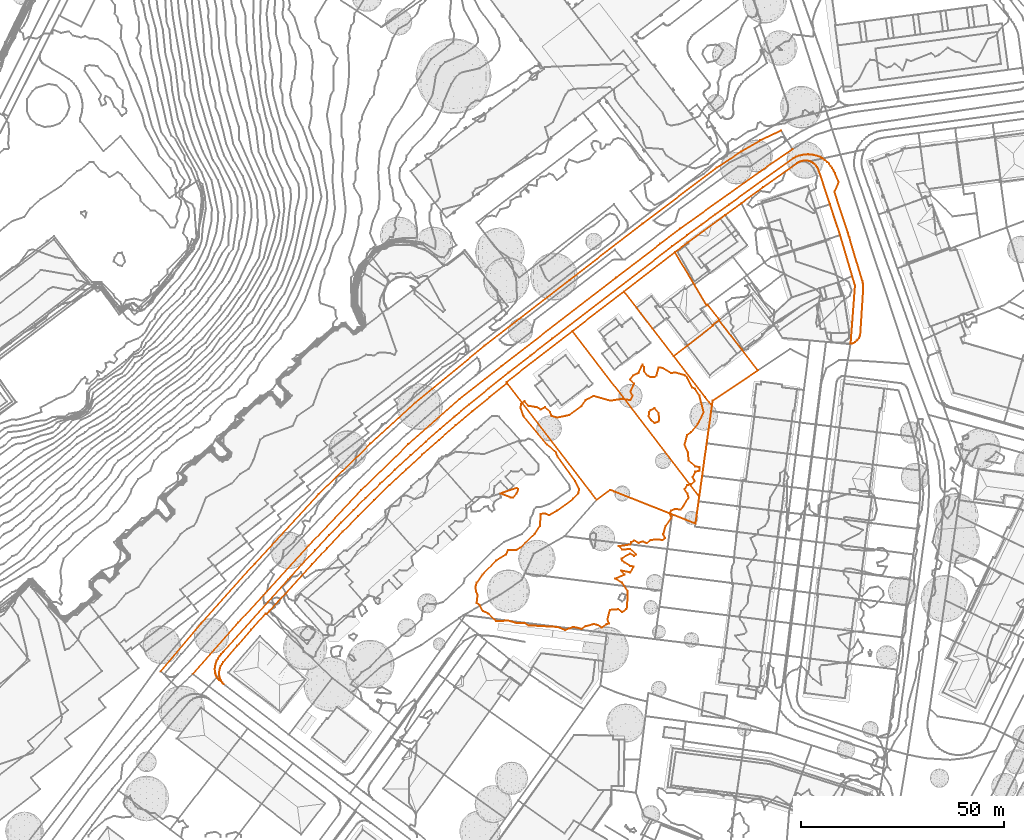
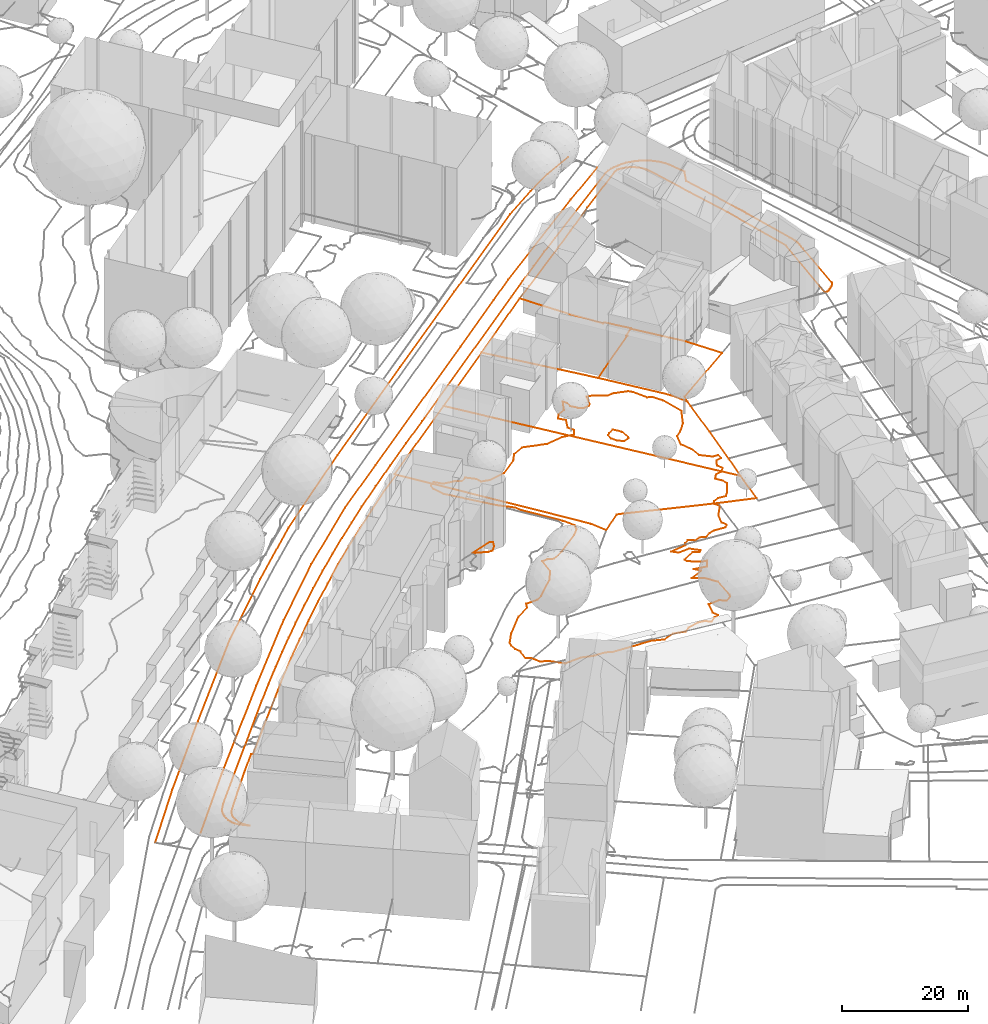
# Not in any storey, part 122 of 494: 10 proxies.
"""IFC2X3 model written with IfcOpenShell, lengths in metres."""

from ifc_helpers import new_model, entity, si_unit, frame, origin_with_axes, place, context, subcontext, project, element, save


model = new_model("IFC2X3")

# Units and contexts
model_context = context("Model", 3, precision=1e-05, world=origin_with_axes())
body_context = subcontext(model_context, "Body", "Model", "MODEL_VIEW")
ifc_project = project(units=[si_unit("AREAUNIT", "SQUARE_METRE"), si_unit("LENGTHUNIT", "METRE")], contexts=[model_context])

# Proxies
proxy_1_placement = place(None, frame((305.0887320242, 38.7097419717, 503.035), z_axis=(0.0, 0.0, 1.0), x_axis=(1.0, 0.0, 0.0)))
element("IfcBuildingElementProxy", 1, at=proxy_1_placement, Name="Road 124", ObjectType="NOTDEFINED", context=body_context, shape_type="GeometricCurveSet", body=[
    entity("IfcGeometricCurveSet", [entity("IfcPolyline", [entity("IfcCartesianPoint", [0.0, 0.0, 0.0]), entity("IfcCartesianPoint", [11.1600000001, 12.6289996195, -0.15]), entity("IfcCartesianPoint", [28.4880000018, 31.5709990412, -0.421]), entity("IfcCartesianPoint", [41.4100000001, 45.2269986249, -0.49]), entity("IfcCartesianPoint", [53.0100000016, 56.5349982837, -0.586]), entity("IfcCartesianPoint", [65.6390000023, 67.6949979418, -0.784]), entity("IfcCartesianPoint", [75.9180000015, 75.7709976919, -0.984]), entity("IfcCartesianPoint", [104.1130000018, 97.5049970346, -1.011]), entity("IfcCartesianPoint", [114.9790000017, 105.8319967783, -0.845]), entity("IfcCartesianPoint", [119.825000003, 109.5459966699, -0.77]), entity("IfcCartesianPoint", [139.355, 123.4959962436, -0.552]), entity("IfcCartesianPoint", [147.469, 129.0869960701, -0.554])])]),
])
proxy_2_placement = place(None, frame((297.1457320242, 39.3937419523, 503.513), z_axis=(0.0, 0.0, 1.0), x_axis=(1.0, 0.0, 0.0)))
element("IfcBuildingElementProxy", 2, at=proxy_2_placement, Name="Road 125", ObjectType="NOTDEFINED", context=body_context, shape_type="GeometricCurveSet", body=[
    entity("IfcGeometricCurveSet", [entity("IfcPolyline", [entity("IfcCartesianPoint", [0.0, 0.0, 0.0]), entity("IfcCartesianPoint", [9.9560000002, 11.7869996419, -0.342]), entity("IfcCartesianPoint", [23.1170000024, 26.4359991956, -0.433]), entity("IfcCartesianPoint", [38.9110000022, 43.6019986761, -0.512]), entity("IfcCartesianPoint", [51.6130000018, 55.9619982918, -0.757]), entity("IfcCartesianPoint", [62.7149999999, 66.1469979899, -0.788]), entity("IfcCartesianPoint", [79.7660000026, 80.1099975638, -1.114]), entity("IfcCartesianPoint", [100.5950000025, 96.245997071, -1.134]), entity("IfcCartesianPoint", [118.5620000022, 110.0929966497, -1.168]), entity("IfcCartesianPoint", [136.7580000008, 123.825996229, -0.733]), entity("IfcCartesianPoint", [142.8230000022, 127.8319961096, -0.864]), entity("IfcCartesianPoint", [147.5160000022, 130.5779960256, -0.789]), entity("IfcCartesianPoint", [152.6660000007, 132.98199595, -0.772])])]),
])
proxy_3_placement = place(None, frame((310.5167320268, 39.9797160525, 503.2314039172), z_axis=(0.0, 0.0, 1.0), x_axis=(1.0, 0.0, 0.0)))
element("IfcBuildingElementProxy", 3, at=proxy_3_placement, Name="Roads Outline 117", ObjectType="NOTDEFINED", context=body_context, shape_type="GeometricCurveSet", body=[
    entity("IfcGeometricCurveSet", [entity("IfcPolyline", [entity("IfcCartesianPoint", [0.0439999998, 0.5989999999, 0.0023964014]), entity("IfcCartesianPoint", [0.142, 1.1109999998, -0.0079386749]), entity("IfcCartesianPoint", [0.2949999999, 1.6089999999, -0.0209923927]), entity("IfcCartesianPoint", [0.5019999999, 2.088, -0.0255629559]), entity("IfcCartesianPoint", [0.7590000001, 2.541, -0.0249603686]), entity("IfcCartesianPoint", [1.148, 3.112, -0.0329496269]), entity("IfcCartesianPoint", [1.5660000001, 3.6609999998, -0.0305464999]), entity("IfcCartesianPoint", [2.014, 4.1869999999, -0.0206225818]), entity("IfcCartesianPoint", [18.0109999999, 21.9549999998, -0.2143375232]), entity("IfcCartesianPoint", [21.3389999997, 25.635, -0.2819058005]), entity("IfcCartesianPoint", [24.7050000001, 29.2799999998, -0.3048659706]), entity("IfcCartesianPoint", [28.1089999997, 32.889, -0.3696303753]), entity("IfcCartesianPoint", [31.0830000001, 35.9789999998, -0.3935965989]), entity("IfcCartesianPoint", [34.085, 39.0419999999, -0.4439990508]), entity("IfcCartesianPoint", [37.1149999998, 42.078, -0.4788601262]), entity("IfcCartesianPoint", [40.6910000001, 45.564, -0.5050100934]), entity("IfcCartesianPoint", [44.3799999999, 49.081, -0.5705514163]), entity("IfcCartesianPoint", [48.1170000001, 52.548, -0.5974054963]), entity("IfcCartesianPoint", [51.9010000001, 55.9639999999, -0.6410032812]), entity("IfcCartesianPoint", [55.4040000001, 59.0449999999, -0.6873969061]), entity("IfcCartesianPoint", [58.9449999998, 62.081, -0.7639125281]), entity("IfcCartesianPoint", [62.5239999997, 65.0729999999, -0.7668765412]), entity("IfcCartesianPoint", [67.3769999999, 69.0059999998, -0.8676019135]), entity("IfcCartesianPoint", [72.2629999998, 72.899, -0.9140638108]), entity("IfcCartesianPoint", [77.6009999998, 77.078, -0.9827889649]), entity("IfcCartesianPoint", [82.9750000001, 81.2109999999, -1.0871109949]), entity("IfcCartesianPoint", [112.4920000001, 103.95, -0.9812183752]), entity("IfcCartesianPoint", [116.0789999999, 106.632, -0.9025532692]), entity("IfcCartesianPoint", [119.679, 109.2969999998, -0.8132938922]), entity("IfcCartesianPoint", [123.0430000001, 111.7619999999, -0.7275266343]), entity("IfcCartesianPoint", [126.4159999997, 114.213, -0.6883915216]), entity("IfcCartesianPoint", [142.2999999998, 125.6449999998, -0.5666473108]), entity("IfcCartesianPoint", [142.9619999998, 125.9719999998, -0.5681413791]), entity("IfcCartesianPoint", [143.6540000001, 126.2279999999, -0.5348041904]), entity("IfcCartesianPoint", [144.3689999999, 126.412, -0.6165723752]), entity("IfcCartesianPoint", [145.0979999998, 126.5219999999, -0.646230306]), entity("IfcCartesianPoint", [145.8360000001, 126.5549999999, -0.6237150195]), entity("IfcCartesianPoint", [146.5729999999, 126.5119999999, -0.6017014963]), entity("IfcCartesianPoint", [147.301, 126.3939999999, -0.6182488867]), entity("IfcCartesianPoint", [148.0129999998, 126.2009999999, -0.6297380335]), entity("IfcCartesianPoint", [148.702, 125.9349999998, -0.5990248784]), entity("IfcCartesianPoint", [149.0379999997, 125.7749999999, -0.5835710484]), entity("IfcCartesianPoint", [149.3649999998, 125.5969999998, -0.5672697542]), entity("IfcCartesianPoint", [149.4789999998, 125.5299999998, -0.5598935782]), entity("IfcCartesianPoint", [149.4309999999, 125.5199999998, -0.5608514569]), entity("IfcCartesianPoint", [149.9959999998, 125.1369999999, -0.5288792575]), entity("IfcCartesianPoint", [150.5239999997, 124.7049999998, -0.5287590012]), entity("IfcCartesianPoint", [151.0109999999, 124.2259999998, -0.5103633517]), entity("IfcCartesianPoint", [151.4529999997, 123.706, -0.503971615]), entity("IfcCartesianPoint", [151.8459999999, 123.149, -0.5102558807]), entity("IfcCartesianPoint", [152.1880000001, 122.558, -0.5168952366]), entity("IfcCartesianPoint", [152.4750000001, 121.939, -0.5331064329]), entity("IfcCartesianPoint", [153.4249999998, 119.7319999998, -0.6096811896]), entity("IfcCartesianPoint", [152.3539999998, 117.3319999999, -0.5914025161]), entity("IfcCartesianPoint", [155.702, 107.2039999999, -0.8062596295]), entity("IfcCartesianPoint", [155.892, 106.6139999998, -0.7975804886]), entity("IfcCartesianPoint", [156.0719999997, 106.0209999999, -0.7949263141]), entity("IfcCartesianPoint", [156.2209999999, 105.4959999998, -0.7953879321]), entity("IfcCartesianPoint", [156.3619999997, 104.9679999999, -0.8002544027]), entity("IfcCartesianPoint", [159.057, 95.987, -0.9736222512]), entity("IfcCartesianPoint", [159.23, 95.3839999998, -0.9751682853]), entity("IfcCartesianPoint", [159.3539999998, 94.7699999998, -0.9723246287]), entity("IfcCartesianPoint", [159.4299999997, 94.1479999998, -0.9836894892]), entity("IfcCartesianPoint", [159.4569999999, 93.5359999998, -0.9928435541]), entity("IfcCartesianPoint", [159.4369999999, 92.9239999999, -0.99130673]), entity("IfcCartesianPoint", [159.3700000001, 92.3149999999, -0.9843427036]), entity("IfcCartesianPoint", [158.7119999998, 82.078, -1.0597992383]), entity("IfcCartesianPoint", [158.577, 81.696, -1.0484235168]), entity("IfcCartesianPoint", [158.3819999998, 81.3399999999, -1.0377921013]), entity("IfcCartesianPoint", [158.1170000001, 81.024, -1.0355252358]), entity("IfcCartesianPoint", [157.8249999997, 80.7319999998, -1.0383063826]), entity("IfcCartesianPoint", [157.4559999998, 80.4299999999, -1.0249441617]), entity("IfcCartesianPoint", [157.0589999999, 80.1679999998, -1.0067967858]), entity("IfcCartesianPoint", [156.7119999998, 80.0419999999, -1.0017735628]), entity("IfcCartesianPoint", [156.3470000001, 79.9809999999, -0.9903735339]), entity("IfcCartesianPoint", [157.4249999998, 94.301, -0.9727797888]), entity("IfcCartesianPoint", [156.7450000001, 96.591, -0.887170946]), entity("IfcCartesianPoint", [153.7749999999, 106.6609999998, -0.6890435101]), entity("IfcCartesianPoint", [151.2549999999, 114.2879999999, -0.5576232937]), entity("IfcCartesianPoint", [148.5049999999, 122.612, -0.3806821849]), entity("IfcCartesianPoint", [148.3289999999, 123.0459999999, -0.4016738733]), entity("IfcCartesianPoint", [148.0959999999, 123.4519999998, -0.4197660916]), entity("IfcCartesianPoint", [147.8109999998, 123.8229999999, -0.4255586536]), entity("IfcCartesianPoint", [147.48, 124.1539999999, -0.4261992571]), entity("IfcCartesianPoint", [147.1069999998, 124.4369999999, -0.4104942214]), entity("IfcCartesianPoint", [146.699, 124.6679999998, -0.3878959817]), entity("IfcCartesianPoint", [146.2650000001, 124.8419999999, -0.3459510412]), entity("IfcCartesianPoint", [145.8139999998, 124.9569999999, -0.3047893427]), entity("IfcCartesianPoint", [145.3509999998, 125.0109999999, -0.2523700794]), entity("IfcCartesianPoint", [144.8859999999, 125.0029999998, -0.1814527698]), entity("IfcCartesianPoint", [144.426, 124.9339999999, -0.107740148]), entity("IfcCartesianPoint", [143.9789999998, 124.8029999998, -0.0255469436]), entity("IfcCartesianPoint", [143.5529999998, 124.615, 0.038259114]), entity("IfcCartesianPoint", [143.156, 124.372, 0.0201986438]), entity("IfcCartesianPoint", [134.827, 118.4609999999, -0.3356483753]), entity("IfcCartesianPoint", [129.4869999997, 114.548, -0.5667403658]), entity("IfcCartesianPoint", [125.4780000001, 111.6109999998, -0.6907381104]), entity("IfcCartesianPoint", [116.301, 104.8489999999, -0.8349104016]), entity("IfcCartesianPoint", [113.1400000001, 102.5199999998, -0.7129869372]), entity("IfcCartesianPoint", [100.6119999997, 92.8599999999, -1.0154761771]), entity("IfcCartesianPoint", [87.9539999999, 83.0999999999, -1.0458705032]), entity("IfcCartesianPoint", [71.7139999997, 70.5389999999, -0.9875006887]), entity("IfcCartesianPoint", [71.898, 70.2999999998, -1.0167001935]), entity("IfcCartesianPoint", [67.6289999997, 66.8979999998, -0.7607562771]), entity("IfcCartesianPoint", [63.4070000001, 63.4369999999, -0.7488287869]), entity("IfcCartesianPoint", [59.233, 59.9179999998, -0.6950139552]), entity("IfcCartesianPoint", [55.108, 56.3429999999, -0.5512145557]), entity("IfcCartesianPoint", [51.0329999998, 52.7109999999, -0.4422593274]), entity("IfcCartesianPoint", [47.0079999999, 49.0229999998, -0.5340603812]), entity("IfcCartesianPoint", [43.034, 45.2799999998, -0.4246107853]), entity("IfcCartesianPoint", [39.111, 41.483, -0.4003045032]), entity("IfcCartesianPoint", [35.2409999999, 37.6329999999, -0.4689538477]), entity("IfcCartesianPoint", [31.4240000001, 33.73, -0.3193280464]), entity("IfcCartesianPoint", [27.6609999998, 29.7759999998, -0.3242893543]), entity("IfcCartesianPoint", [23.952, 25.7699999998, -0.3342337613]), entity("IfcCartesianPoint", [17.3989999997, 18.5939999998, -0.2285384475]), entity("IfcCartesianPoint", [13.514, 14.3399999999, -0.2604824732]), entity("IfcCartesianPoint", [12.6949999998, 13.443, -0.1367353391]), entity("IfcCartesianPoint", [12.4839999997, 13.6479999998, -0.1464982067]), entity("IfcCartesianPoint", [8.9819999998, 9.6849999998, 0.0283784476]), entity("IfcCartesianPoint", [5.5099999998, 5.6949999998, 0.0406562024]), entity("IfcCartesianPoint", [2.0690000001, 1.6779999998, 0.0230462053]), entity("IfcCartesianPoint", [1.7379999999, 1.2449999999, 0.0228162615]), entity("IfcCartesianPoint", [1.469, 0.7699999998, 0.025807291]), entity("IfcCartesianPoint", [1.267, 0.264, 0.0280032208]), entity("IfcCartesianPoint", [1.1359999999, -0.2650000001, 0.0262823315]), entity("IfcCartesianPoint", [1.077, -0.807, 0.0279452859]), entity("IfcCartesianPoint", [1.0929999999, -1.3520000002, 0.0298470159]), entity("IfcCartesianPoint", [1.1809999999, -1.8790000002, 0.0254959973]), entity("IfcCartesianPoint", [1.338, -2.3890000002, 0.027814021]), entity("IfcCartesianPoint", [1.5609999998, -2.8740000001, 0.0382439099]), entity("IfcCartesianPoint", [1.8470000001, -3.3250000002, 0.0448121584]), entity("IfcCartesianPoint", [2.1899999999, -3.7340000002, 0.0501786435]), entity("IfcCartesianPoint", [1.0649999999, -2.7250000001, 0.0199997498]), entity("IfcCartesianPoint", [0.7509999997, -2.398, 0.0054395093]), entity("IfcCartesianPoint", [0.4890000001, -2.0280000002, 0.0047430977]), entity("IfcCartesianPoint", [0.2829999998, -1.6220000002, 0.0084737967]), entity("IfcCartesianPoint", [0.1400000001, -1.1900000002, 0.0093501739]), entity("IfcCartesianPoint", [0.0329999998, -0.5990000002, 0.0026135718]), entity("IfcCartesianPoint", [0.0, 0.0, 0.0]), entity("IfcCartesianPoint", [0.0439999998, 0.5989999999, 0.0023964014])])]),
])
proxy_4_placement = place(None, frame((382.2307320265, 110.5187160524, 502.2439032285), z_axis=(0.0, 0.0, 1.0), x_axis=(1.0, 0.0, 0.0)))
element("IfcBuildingElementProxy", 4, at=proxy_4_placement, Name="Cadastre 185", ObjectType="NOTDEFINED", context=body_context, shape_type="GeometricCurveSet", body=[
    entity("IfcGeometricCurveSet", [entity("IfcPolyline", [entity("IfcCartesianPoint", [0.0, 0.0, 0.0]), entity("IfcCartesianPoint", [16.2400000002, 12.561, -0.0583698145]), entity("IfcCartesianPoint", [47.4240000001, -28.1089999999, 0.0974211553]), entity("IfcCartesianPoint", [47.2440000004, -29.3389999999, 0.1184834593]), entity("IfcCartesianPoint", [46.483, -34.8189999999, 0.1819908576]), entity("IfcCartesianPoint", [40.7440000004, -32.54, -0.1560357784]), entity("IfcCartesianPoint", [26.5150000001, -26.8999999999, -0.6490031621]), entity("IfcCartesianPoint", [25.5160000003, -26.5, -0.7018134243]), entity("IfcCartesianPoint", [22.2260000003, -28.9399999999, -1.1170318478]), entity("IfcCartesianPoint", [20.6560000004, -26.8899999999, -0.5943711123]), entity("IfcCartesianPoint", [0.1840000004, -0.2390000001, -0.0291995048]), entity("IfcCartesianPoint", [0.0, 0.0, 0.0])])]),
])
proxy_5_placement = place(None, frame((423.3877320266, 116.9097160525, 502.6486279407), z_axis=(0.0, 0.0, 1.0), x_axis=(1.0, 0.0, 0.0)))
element("IfcBuildingElementProxy", 5, at=proxy_5_placement, Name="Cadastre 192", ObjectType="NOTDEFINED", context=body_context, shape_type="GeometricCurveSet", body=[
    entity("IfcGeometricCurveSet", [entity("IfcPolyline", [entity("IfcCartesianPoint", [0.0, 0.0, 0.0]), entity("IfcCartesianPoint", [3.3700000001, 2.6199999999, 0.2511038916]), entity("IfcCartesianPoint", [9.6890000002, 7.52, 0.2823012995]), entity("IfcCartesianPoint", [9.5490000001, 7.6899999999, 0.2814447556]), entity("IfcCartesianPoint", [11.0989999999, 8.8799999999, 0.3019042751]), entity("IfcCartesianPoint", [16.7579999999, 1.5899999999, 0.3437999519]), entity("IfcCartesianPoint", [20.7080000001, -3.49, -0.2607634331]), entity("IfcCartesianPoint", [9.548, -10.97, -0.3038488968]), entity("IfcCartesianPoint", [9.378, -12.1899999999, -0.4959417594]), entity("IfcCartesianPoint", [7.719, -10.04, 0.0002946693]), entity("IfcCartesianPoint", [0.0, 0.0, 0.0])])]),
])
proxy_6_placement = place(None, frame((411.1287320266, 132.8397160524, 502.2159277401), z_axis=(0.0, 0.0, 1.0), x_axis=(1.0, 0.0, 0.0)))
element("IfcBuildingElementProxy", 6, at=proxy_6_placement, Name="Cadastre 193", ObjectType="NOTDEFINED", context=body_context, shape_type="GeometricCurveSet", body=[
    entity("IfcGeometricCurveSet", [entity("IfcPolyline", [entity("IfcCartesianPoint", [0.0, 0.0, 0.0]), entity("IfcCartesianPoint", [12.5280000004, 9.6599999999, 0.3024892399]), entity("IfcCartesianPoint", [17.3080000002, 1.6699999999, 0.3451978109]), entity("IfcCartesianPoint", [20.3680000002, -3.46, 0.6609921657]), entity("IfcCartesianPoint", [20.5980000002, -3.29, 0.6723202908]), entity("IfcCartesianPoint", [23.4680000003, -6.96, 0.7381610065]), entity("IfcCartesianPoint", [23.358, -7.05, 0.7346044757]), entity("IfcCartesianPoint", [21.8080000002, -8.24, 0.7141449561]), entity("IfcCartesianPoint", [21.9480000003, -8.4099999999, 0.7150015]), entity("IfcCartesianPoint", [15.6290000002, -13.3100000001, 0.6838040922]), entity("IfcCartesianPoint", [12.2590000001, -15.9299999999, 0.4327002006]), entity("IfcCartesianPoint", [0.0, 0.0, 0.0])])]),
])
proxy_7_placement = place(None, frame((398.4707320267, 123.0797160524, 502.185533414), z_axis=(0.0, 0.0, 1.0), x_axis=(1.0, 0.0, 0.0)))
element("IfcBuildingElementProxy", 7, at=proxy_7_placement, Name="Cadastre 198", ObjectType="NOTDEFINED", context=body_context, shape_type="GeometricCurveSet", body=[
    entity("IfcGeometricCurveSet", [entity("IfcPolyline", [entity("IfcCartesianPoint", [0.0, 0.0, 0.0]), entity("IfcCartesianPoint", [12.6579999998, 9.76, 0.0303943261]), entity("IfcCartesianPoint", [24.9169999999, -6.1699999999, 0.4630945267]), entity("IfcCartesianPoint", [32.6359999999, -16.21, 0.4633891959]), entity("IfcCartesianPoint", [34.2949999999, -18.3599999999, -0.0328472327]), entity("IfcCartesianPoint", [34.105, -19.71, 0.0149140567]), entity("IfcCartesianPoint", [32.9950000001, -27.6399999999, 0.2170283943]), entity("IfcCartesianPoint", [31.8840000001, -35.6399999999, 0.2687330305]), entity("IfcCartesianPoint", [31.1839999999, -40.6699999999, 0.1557909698]), entity("IfcCartesianPoint", [0.0, 0.0, 0.0])])]),
])
proxy_8_placement = place(None, frame((417.2343834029, 102.1707160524, 502.0), z_axis=(0.0, 0.0, 1.0), x_axis=(1.0, 0.0, 0.0)))
element("IfcBuildingElementProxy", 8, at=proxy_8_placement, Name="Contour Line 502.0 m", ObjectType="NOTDEFINED", context=body_context, shape_type="GeometricCurveSet", body=[
    entity("IfcGeometricCurveSet", [entity("IfcPolyline", [entity("IfcCartesianPoint", [2.5278822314, -1.0, 0.0]), entity("IfcCartesianPoint", [2.4433486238, -1.3459649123, 0.0]), entity("IfcCartesianPoint", [1.4433486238, -1.6945176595, 0.0]), entity("IfcCartesianPoint", [0.5102749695, -1.0, 0.0]), entity("IfcCartesianPoint", [0.0, 0.0, 0.0]), entity("IfcCartesianPoint", [0.0429633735, 1.0, 0.0]), entity("IfcCartesianPoint", [0.4433486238, 1.4381210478, 0.0]), entity("IfcCartesianPoint", [1.4433486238, 1.9955763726, 0.0]), entity("IfcCartesianPoint", [2.4433486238, 0.6994475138, 0.0]), entity("IfcCartesianPoint", [2.5278822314, -1.0, 0.0])])]),
])
proxy_9_placement = place(None, frame((380.7436002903, 83.1707160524, 504.0), z_axis=(0.0, 0.0, 1.0), x_axis=(1.0, 0.0, 0.0)))
element("IfcBuildingElementProxy", 9, at=proxy_9_placement, Name="Contour Line 504.0 m", ObjectType="NOTDEFINED", context=body_context, shape_type="GeometricCurveSet", body=[
    entity("IfcGeometricCurveSet", [entity("IfcPolyline", [entity("IfcCartesianPoint", [3.1530349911, -1.0, 0.0]), entity("IfcCartesianPoint", [2.4597356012, -1.0, 0.0]), entity("IfcCartesianPoint", [0.0, 0.0, 0.0]), entity("IfcCartesianPoint", [3.9341317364, 1.3237540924, 0.0]), entity("IfcCartesianPoint", [4.403293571, 1.0, 0.0]), entity("IfcCartesianPoint", [3.9954251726, 0.0, 0.0]), entity("IfcCartesianPoint", [3.1530349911, -1.0, 0.0])])]),
])
proxy_10_placement = place(None, frame((374.6777320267, 60.2703329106, 502.0), z_axis=(0.0, 0.0, 1.0), x_axis=(1.0, 0.0, 0.0)))
element("IfcBuildingElementProxy", 10, at=proxy_10_placement, Name="Contour Line 502.0 m", ObjectType="NOTDEFINED", context=body_context, shape_type="GeometricCurveSet", body=[
    entity("IfcGeometricCurveSet", [entity("IfcPolyline", [entity("IfcCartesianPoint", [31.0, -10.1338071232, 0.0]), entity("IfcCartesianPoint", [32.0, -9.330059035, 0.0]), entity("IfcCartesianPoint", [32.7411121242, -9.0996168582, 0.0]), entity("IfcCartesianPoint", [32.3909090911, -8.0996168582, 0.0]), entity("IfcCartesianPoint", [33.0, -5.7561265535, 0.0]), entity("IfcCartesianPoint", [35.0, -5.6096697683, 0.0]), entity("IfcCartesianPoint", [36.0, -6.3146339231, 0.0]), entity("IfcCartesianPoint", [37.0, -5.6182009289, 0.0]), entity("IfcCartesianPoint", [37.2186567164, -5.0996168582, 0.0]), entity("IfcCartesianPoint", [37.404597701, -1.0996168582, 0.0]), entity("IfcCartesianPoint", [36.0, 0.9355071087, 0.0]), entity("IfcCartesianPoint", [34.2367816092, 1.9003831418, 0.0]), entity("IfcCartesianPoint", [36.6272475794, 2.9003831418, 0.0]), entity("IfcCartesianPoint", [35.790513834, 3.9003831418, 0.0]), entity("IfcCartesianPoint", [38.0, 3.4631774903, 0.0]), entity("IfcCartesianPoint", [38.8135593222, 4.9003831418, 0.0]), entity("IfcCartesianPoint", [38.0, 5.0249506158, 0.0]), entity("IfcCartesianPoint", [36.6119791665, 5.9003831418, 0.0]), entity("IfcCartesianPoint", [36.0, 6.3593675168, 0.0]), entity("IfcCartesianPoint", [35.8181221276, 6.9003831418, 0.0]), entity("IfcCartesianPoint", [38.0, 8.0733935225, 0.0]), entity("IfcCartesianPoint", [39.0, 7.4915596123, 0.0]), entity("IfcCartesianPoint", [39.3739071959, 7.9003831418, 0.0]), entity("IfcCartesianPoint", [38.0, 9.2032982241, 0.0]), entity("IfcCartesianPoint", [36.0, 9.0627360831, 0.0]), entity("IfcCartesianPoint", [35.1231527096, 9.9003831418, 0.0]), entity("IfcCartesianPoint", [38.0, 10.3208724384, 0.0]), entity("IfcCartesianPoint", [38.2530884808, 10.9003831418, 0.0]), entity("IfcCartesianPoint", [39.0, 11.3066671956, 0.0]), entity("IfcCartesianPoint", [40.0, 10.6983987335, 0.0]), entity("IfcCartesianPoint", [41.0, 11.0723188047, 0.0]), entity("IfcCartesianPoint", [42.0, 10.6467860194, 0.0]), entity("IfcCartesianPoint", [43.0, 11.3522535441, 0.0]), entity("IfcCartesianPoint", [44.0, 11.5707371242, 0.0]), entity("IfcCartesianPoint", [46.0, 11.4146574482, 0.0]), entity("IfcCartesianPoint", [46.513507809, 11.9003831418, 0.0]), entity("IfcCartesianPoint", [46.1225925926, 12.9003831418, 0.0]), entity("IfcCartesianPoint", [46.6977914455, 14.9003831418, 0.0]), entity("IfcCartesianPoint", [48.1292803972, 16.9003831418, 0.0]), entity("IfcCartesianPoint", [47.7686341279, 17.9003831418, 0.0]), entity("IfcCartesianPoint", [48.0, 18.6024497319, 0.0]), entity("IfcCartesianPoint", [49.0, 19.0528080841, 0.0]), entity("IfcCartesianPoint", [50.3760469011, 18.9003831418, 0.0]), entity("IfcCartesianPoint", [51.0, 19.6300599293, 0.0]), entity("IfcCartesianPoint", [52.3299360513, 21.9003831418, 0.0]), entity("IfcCartesianPoint", [52.0645498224, 22.9003831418, 0.0]), entity("IfcCartesianPoint", [51.3236831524, 23.9003831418, 0.0]), entity("IfcCartesianPoint", [52.0, 24.8938857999, 0.0]), entity("IfcCartesianPoint", [53.0, 25.1161937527, 0.0]), entity("IfcCartesianPoint", [53.8603896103, 25.9003831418, 0.0]), entity("IfcCartesianPoint", [53.3711169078, 26.9003831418, 0.0]), entity("IfcCartesianPoint", [54.0, 28.1971346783, 0.0]), entity("IfcCartesianPoint", [55.0, 28.4606640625, 0.0]), entity("IfcCartesianPoint", [55.0, 29.3707504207, 0.0]), entity("IfcCartesianPoint", [54.0, 29.4620942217, 0.0]), entity("IfcCartesianPoint", [52.3739028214, 30.9003831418, 0.0]), entity("IfcCartesianPoint", [52.1864851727, 32.9003831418, 0.0]), entity("IfcCartesianPoint", [51.3496742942, 34.9003831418, 0.0]), entity("IfcCartesianPoint", [52.0, 37.2733501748, 0.0]), entity("IfcCartesianPoint", [53.0, 37.995314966, 0.0]), entity("IfcCartesianPoint", [54.6121649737, 39.9003831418, 0.0]), entity("IfcCartesianPoint", [56.0646523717, 42.9003831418, 0.0]), entity("IfcCartesianPoint", [54.9916280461, 46.9003831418, 0.0]), entity("IfcCartesianPoint", [54.0, 48.5469469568, 0.0]), entity("IfcCartesianPoint", [53.2223485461, 48.9003831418, 0.0]), entity("IfcCartesianPoint", [52.0, 51.3563047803, 0.0]), entity("IfcCartesianPoint", [51.4359566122, 51.9003831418, 0.0]), entity("IfcCartesianPoint", [49.0, 52.6251765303, 0.0]), entity("IfcCartesianPoint", [48.0, 52.4463916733, 0.0]), entity("IfcCartesianPoint", [46.0, 53.6917020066, 0.0]), entity("IfcCartesianPoint", [45.0, 53.8780405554, 0.0]), entity("IfcCartesianPoint", [44.4159729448, 51.9003831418, 0.0]), entity("IfcCartesianPoint", [44.0, 51.4995307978, 0.0]), entity("IfcCartesianPoint", [43.0, 51.4359393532, 0.0]), entity("IfcCartesianPoint", [42.2173048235, 51.9003831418, 0.0]), entity("IfcCartesianPoint", [41.3988298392, 52.9003831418, 0.0]), entity("IfcCartesianPoint", [41.3855656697, 53.9003831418, 0.0]), entity("IfcCartesianPoint", [41.0, 54.6038232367, 0.0]), entity("IfcCartesianPoint", [40.0, 52.5136836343, 0.0]), entity("IfcCartesianPoint", [38.6739837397, 51.9003831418, 0.0]), entity("IfcCartesianPoint", [37.9906542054, 50.9003831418, 0.0]), entity("IfcCartesianPoint", [38.8837606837, 49.9003831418, 0.0]), entity("IfcCartesianPoint", [38.0514212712, 47.9003831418, 0.0]), entity("IfcCartesianPoint", [38.5909090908, 46.9003831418, 0.0]), entity("IfcCartesianPoint", [38.0, 45.7796786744, 0.0]), entity("IfcCartesianPoint", [36.0, 46.1141483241, 0.0]), entity("IfcCartesianPoint", [33.0, 45.6764182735, 0.0]), entity("IfcCartesianPoint", [29.0, 46.8285984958, 0.0]), entity("IfcCartesianPoint", [27.0, 45.8518624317, 0.0]), entity("IfcCartesianPoint", [26.0, 44.3836007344, 0.0]), entity("IfcCartesianPoint", [23.0, 42.1322772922, 0.0]), entity("IfcCartesianPoint", [20.0, 41.5400048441, 0.0]), entity("IfcCartesianPoint", [18.6432806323, 41.9003831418, 0.0]), entity("IfcCartesianPoint", [18.3018181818, 42.9003831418, 0.0]), entity("IfcCartesianPoint", [17.0, 44.096879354, 0.0]), entity("IfcCartesianPoint", [16.0, 43.5155516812, 0.0]), entity("IfcCartesianPoint", [15.0, 44.0663477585, 0.0]), entity("IfcCartesianPoint", [13.0, 44.4131766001, 0.0]), entity("IfcCartesianPoint", [12.0, 45.5849279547, 0.0]), entity("IfcCartesianPoint", [11.1373943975, 44.9003831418, 0.0]), entity("IfcCartesianPoint", [11.0610158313, 43.9003831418, 0.0]), entity("IfcCartesianPoint", [11.7397899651, 41.9003831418, 0.0]), entity("IfcCartesianPoint", [17.5284212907, 34.9003831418, 0.0]), entity("IfcCartesianPoint", [19.7352479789, 32.9003831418, 0.0]), entity("IfcCartesianPoint", [20.1618283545, 31.9003831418, 0.0]), entity("IfcCartesianPoint", [24.4897206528, 25.9003831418, 0.0]), entity("IfcCartesianPoint", [25.4699026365, 23.9003831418, 0.0]), entity("IfcCartesianPoint", [25.2137197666, 22.9003831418, 0.0]), entity("IfcCartesianPoint", [24.0, 21.5511298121, 0.0]), entity("IfcCartesianPoint", [20.0, 18.6405390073, 0.0]), entity("IfcCartesianPoint", [18.0, 17.4981316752, 0.0]), entity("IfcCartesianPoint", [17.0, 17.9364873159, 0.0]), entity("IfcCartesianPoint", [16.0, 17.8271437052, 0.0]), entity("IfcCartesianPoint", [15.7812474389, 14.9003831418, 0.0]), entity("IfcCartesianPoint", [14.46367225, 12.9003831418, 0.0]), entity("IfcCartesianPoint", [11.0, 9.5979923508, 0.0]), entity("IfcCartesianPoint", [10.0, 8.965964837, 0.0]), entity("IfcCartesianPoint", [7.9101239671, 8.9003831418, 0.0]), entity("IfcCartesianPoint", [7.4473067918, 7.9003831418, 0.0]), entity("IfcCartesianPoint", [5.0, 6.3899645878, 0.0]), entity("IfcCartesianPoint", [1.6582336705, 2.9003831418, 0.0]), entity("IfcCartesianPoint", [0.2339472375, 0.9003831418, 0.0]), entity("IfcCartesianPoint", [0.0, 0.0, 0.0]), entity("IfcCartesianPoint", [0.0505851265, -1.0996168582, 0.0]), entity("IfcCartesianPoint", [0.4611133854, -2.0996168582, 0.0]), entity("IfcCartesianPoint", [0.2255083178, -4.0996168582, 0.0]), entity("IfcCartesianPoint", [1.0, -4.5669899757, 0.0]), entity("IfcCartesianPoint", [1.7910944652, -6.0996168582, 0.0]), entity("IfcCartesianPoint", [3.0, -6.6171870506, 0.0]), entity("IfcCartesianPoint", [5.0, -8.5431855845, 0.0]), entity("IfcCartesianPoint", [8.0, -8.3940149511, 0.0]), entity("IfcCartesianPoint", [10.0, -9.004529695, 0.0]), entity("IfcCartesianPoint", [12.0, -9.0602102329, 0.0]), entity("IfcCartesianPoint", [13.0, -9.5712694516, 0.0]), entity("IfcCartesianPoint", [20.0, -9.961705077, 0.0]), entity("IfcCartesianPoint", [22.0, -10.6806277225, 0.0]), entity("IfcCartesianPoint", [24.0, -9.9338573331, 0.0]), entity("IfcCartesianPoint", [26.0, -10.4368099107, 0.0]), entity("IfcCartesianPoint", [27.0, -9.7714411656, 0.0]), entity("IfcCartesianPoint", [29.0, -9.2679137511, 0.0]), entity("IfcCartesianPoint", [30.0, -9.4574714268, 0.0]), entity("IfcCartesianPoint", [31.0, -10.1338071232, 0.0])])]),
])

save(model, "model.ifc")
